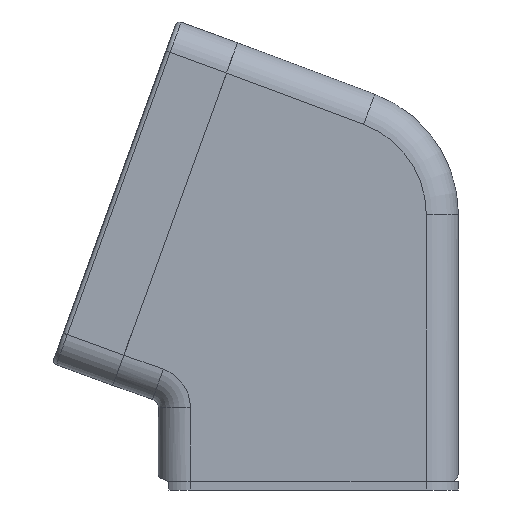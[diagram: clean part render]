
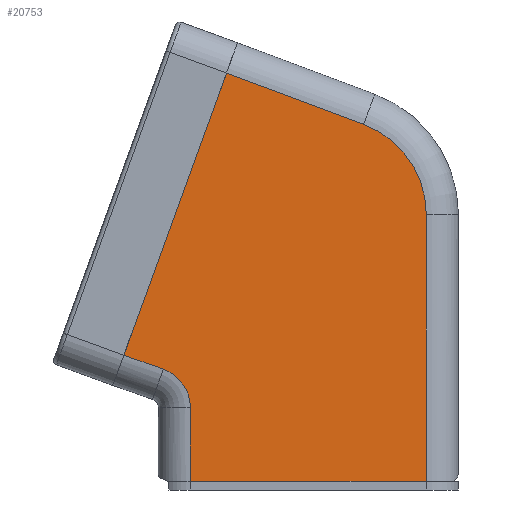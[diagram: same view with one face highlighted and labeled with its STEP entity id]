
A CAD part, left-side view. The second image highlights one B-rep face of the part: STEP entity #20753.
In plain terms, the highlighted planar face has unit normal (-1, 0, 0).
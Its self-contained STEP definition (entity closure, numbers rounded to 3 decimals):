
#279 = LINE ( 'NONE', #23605, #22439 ) ;
#517 = EDGE_CURVE ( 'NONE', #23271, #23923, #19485, .T. ) ;
#561 = EDGE_CURVE ( 'NONE', #23923, #13495, #16849, .T. ) ;
#568 = EDGE_CURVE ( 'NONE', #8357, #21055, #279, .T. ) ;
#604 = EDGE_CURVE ( 'NONE', #21055, #3876, #21793, .T. ) ;
#606 = EDGE_CURVE ( 'NONE', #3876, #15062, #8398, .T. ) ;
#620 = LINE ( 'NONE', #21098, #11481 ) ;
#653 = EDGE_CURVE ( 'NONE', #14402, #23271, #620, .T. ) ;
#2515 = FACE_OUTER_BOUND ( 'NONE', #15491, .T. ) ;
#3769 = CARTESIAN_POINT ( 'NONE',  ( -100., 17.546, 99.443 ) ) ;
#3876 = VERTEX_POINT ( 'NONE', #19840 ) ;
#4463 = CARTESIAN_POINT ( 'NONE',  ( -100., 43.026, 29.436 ) ) ;
#5838 = DIRECTION ( 'NONE',  ( 0., -0.342, 0.94 ) ) ;
#6057 = LINE ( 'NONE', #14691, #16853 ) ;
#7071 = ORIENTED_EDGE ( 'NONE', *, *, #517, .T. ) ;
#7676 = ORIENTED_EDGE ( 'NONE', *, *, #604, .T. ) ;
#7907 = AXIS2_PLACEMENT_3D ( 'NONE', #24863, #12252, #26948 ) ;
#8302 = CARTESIAN_POINT ( 'NONE',  ( -100., -27.5, 0. ) ) ;
#8357 = VERTEX_POINT ( 'NONE', #8302 ) ;
#8398 = LINE ( 'NONE', #21840, #19798 ) ;
#9098 = VECTOR ( 'NONE', #5838, 1000. ) ;
#11150 = VECTOR ( 'NONE', #23516, 1000. ) ;
#11410 = ORIENTED_EDGE ( 'NONE', *, *, #561, .T. ) ;
#11481 = VECTOR ( 'NONE', #21646, 1000. ) ;
#12252 = DIRECTION ( 'NONE',  ( -1., 0., 0. ) ) ;
#13495 = VERTEX_POINT ( 'NONE', #22544 ) ;
#13662 = EDGE_CURVE ( 'NONE', #8357, #13495, #6057, .T. ) ;
#14402 = VERTEX_POINT ( 'NONE', #4463 ) ;
#14691 = CARTESIAN_POINT ( 'NONE',  ( -100., 15.5, 0. ) ) ;
#14853 = LINE ( 'NONE', #3769, #9098 ) ;
#15015 = CARTESIAN_POINT ( 'NONE',  ( -100., 33.829, 26.179 ) ) ;
#15062 = VERTEX_POINT ( 'NONE', #26386 ) ;
#15491 = EDGE_LOOP ( 'NONE', ( #7071, #11410, #18783, #17125, #7676, #21087, #19451, #25276 ) ) ;
#16417 = PLANE ( 'NONE',  #7907 ) ;
#16849 = LINE ( 'NONE', #24121, #11150 ) ;
#16853 = VECTOR ( 'NONE', #25096, 1000. ) ;
#17125 = ORIENTED_EDGE ( 'NONE', *, *, #568, .T. ) ;
#17436 = CARTESIAN_POINT ( 'NONE',  ( -100., -27.5, 62.188 ) ) ;
#18783 = ORIENTED_EDGE ( 'NONE', *, *, #13662, .F. ) ;
#19451 = ORIENTED_EDGE ( 'NONE', *, *, #23643, .F. ) ;
#19485 = CIRCLE ( 'NONE', #23588, 9.5 ) ;
#19798 = VECTOR ( 'NONE', #21787, 1000. ) ;
#19840 = CARTESIAN_POINT ( 'NONE',  ( -100., -12.88, 83.263 ) ) ;
#20753 = ADVANCED_FACE ( 'NONE', ( #2515 ), #16417, .T. ) ;
#21055 = VERTEX_POINT ( 'NONE', #17436 ) ;
#21087 = ORIENTED_EDGE ( 'NONE', *, *, #606, .T. ) ;
#21098 = CARTESIAN_POINT ( 'NONE',  ( -100., 33.829, 26.179 ) ) ;
#21646 = DIRECTION ( 'NONE',  ( 0., -0.943, -0.334 ) ) ;
#21787 = DIRECTION ( 'NONE',  ( 0., 0.937, 0.35 ) ) ;
#21793 = CIRCLE ( 'NONE', #22381, 22.5 ) ;
#21837 = CARTESIAN_POINT ( 'NONE',  ( -100., 27.5, 17.224 ) ) ;
#21840 = CARTESIAN_POINT ( 'NONE',  ( -100., 19.146, 95.237 ) ) ;
#22381 = AXIS2_PLACEMENT_3D ( 'NONE', #22762, #22722, #22656 ) ;
#22439 = VECTOR ( 'NONE', #23489, 1000. ) ;
#22544 = CARTESIAN_POINT ( 'NONE',  ( -100., 27.5, 0. ) ) ;
#22656 = DIRECTION ( 'NONE',  ( 0., 0., 1. ) ) ;
#22722 = DIRECTION ( 'NONE',  ( -1., 0., 0. ) ) ;
#22762 = CARTESIAN_POINT ( 'NONE',  ( -100., -5., 62.188 ) ) ;
#23271 = VERTEX_POINT ( 'NONE', #15015 ) ;
#23489 = DIRECTION ( 'NONE',  ( 0., 0., 1. ) ) ;
#23516 = DIRECTION ( 'NONE',  ( 0., 0., -1. ) ) ;
#23588 = AXIS2_PLACEMENT_3D ( 'NONE', #24927, #24895, #24839 ) ;
#23605 = CARTESIAN_POINT ( 'NONE',  ( -100., -27.5, 62.188 ) ) ;
#23643 = EDGE_CURVE ( 'NONE', #14402, #15062, #14853, .T. ) ;
#23923 = VERTEX_POINT ( 'NONE', #21837 ) ;
#24121 = CARTESIAN_POINT ( 'NONE',  ( -100., 27.5, 1.61 ) ) ;
#24839 = DIRECTION ( 'NONE',  ( 0., 0., 1. ) ) ;
#24863 = CARTESIAN_POINT ( 'NONE',  ( -100., 34., 1.61 ) ) ;
#24895 = DIRECTION ( 'NONE',  ( 1., 0., 0. ) ) ;
#24927 = CARTESIAN_POINT ( 'NONE',  ( -100., 37., 17.224 ) ) ;
#25096 = DIRECTION ( 'NONE',  ( 0., 1., 0. ) ) ;
#25276 = ORIENTED_EDGE ( 'NONE', *, *, #653, .T. ) ;
#26386 = CARTESIAN_POINT ( 'NONE',  ( -100., 19.085, 95.214 ) ) ;
#26948 = DIRECTION ( 'NONE',  ( 0., 0., 1. ) ) ;
